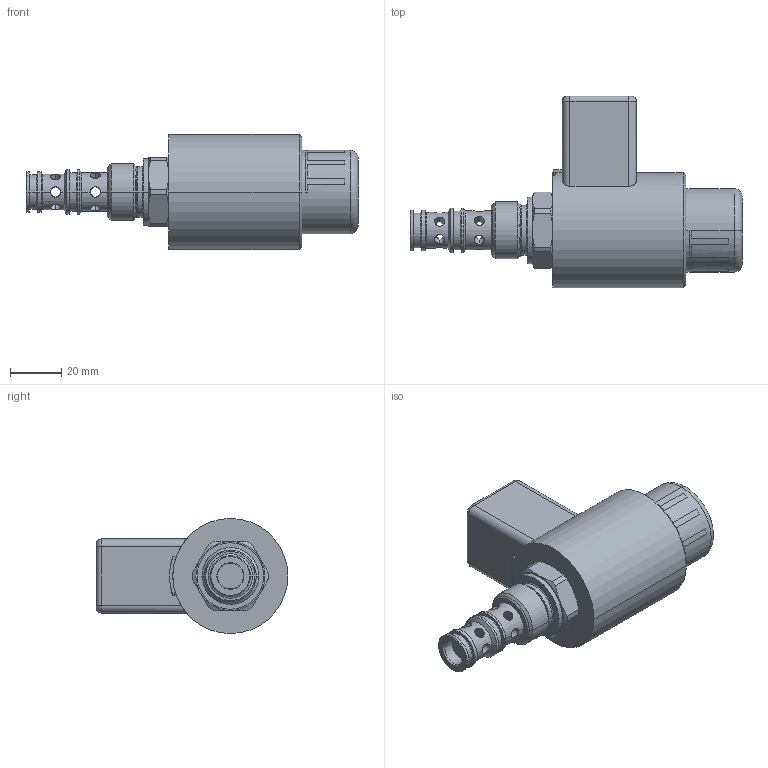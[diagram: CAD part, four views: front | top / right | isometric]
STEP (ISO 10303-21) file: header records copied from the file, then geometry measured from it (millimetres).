
FILE_DESCRIPTION((''),'2;1');
FILE_NAME('SD2E_B3_H','2011-03-14T',('tvatras'),(''),'PRO/ENGINEER BY PARAMETRIC TECHNOLOGY CORPORATION, 2010180','PRO/ENGINEER BY PARAMETRIC TECHNOLOGY CORPORATION, 2010180','');
FILE_SCHEMA(('CONFIG_CONTROL_DESIGN'));
Length unit declared in the file: millimetre
Products named in the file (1): SD2E_B3_H
Bounding box: 129.85 x 75 x 45 mm (x, y, z)
Volume: 142576.7 mm3; surface area: 21418.9 mm2
Topology: 1 solids, 4 shells, 151 faces, 402 edges, 253 vertices
Faces by surface type: cylinder 75, plane 28, cone 28, torus 16, bspline 4
Entity records: 5390 total; most frequent: CARTESIAN_POINT 1600, DIRECTION 790, ORIENTED_EDGE 790, EDGE_CURVE 399, AXIS2_PLACEMENT_3D 327, VERTEX_POINT 251, CIRCLE 178, EDGE_LOOP 170
